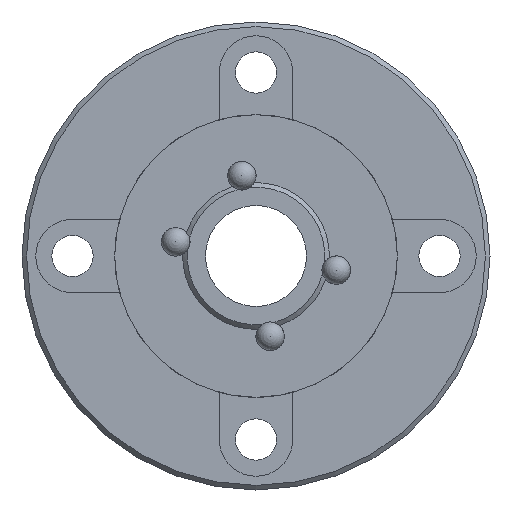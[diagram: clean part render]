
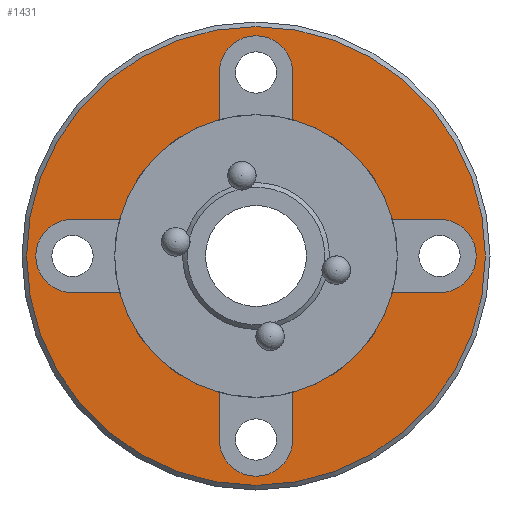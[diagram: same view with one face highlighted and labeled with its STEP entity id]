
A CAD part, left-side view. The second image highlights one B-rep face of the part: STEP entity #1431.
In plain terms, the highlighted planar face has unit normal (-1, 0, 0).
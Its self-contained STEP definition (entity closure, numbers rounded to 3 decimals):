
#54=PLANE('',#1598);
#94=LINE('',#2805,#142);
#95=LINE('',#2806,#143);
#96=LINE('',#2810,#144);
#97=LINE('',#2811,#145);
#98=LINE('',#2815,#146);
#99=LINE('',#2816,#147);
#100=LINE('',#2820,#148);
#101=LINE('',#2821,#149);
#142=VECTOR('',#1902,1000.);
#143=VECTOR('',#1903,1000.);
#144=VECTOR('',#1906,1000.);
#145=VECTOR('',#1907,1000.);
#146=VECTOR('',#1910,1000.);
#147=VECTOR('',#1911,1000.);
#148=VECTOR('',#1914,1000.);
#149=VECTOR('',#1915,1000.);
#425=ORIENTED_EDGE('',*,*,#732,.T.);
#426=ORIENTED_EDGE('',*,*,#733,.T.);
#427=ORIENTED_EDGE('',*,*,#715,.T.);
#428=ORIENTED_EDGE('',*,*,#734,.T.);
#429=ORIENTED_EDGE('',*,*,#735,.T.);
#430=ORIENTED_EDGE('',*,*,#736,.T.);
#431=ORIENTED_EDGE('',*,*,#711,.T.);
#432=ORIENTED_EDGE('',*,*,#737,.T.);
#433=ORIENTED_EDGE('',*,*,#738,.T.);
#434=ORIENTED_EDGE('',*,*,#739,.T.);
#435=ORIENTED_EDGE('',*,*,#707,.T.);
#436=ORIENTED_EDGE('',*,*,#740,.T.);
#437=ORIENTED_EDGE('',*,*,#741,.T.);
#438=ORIENTED_EDGE('',*,*,#742,.T.);
#439=ORIENTED_EDGE('',*,*,#719,.T.);
#440=ORIENTED_EDGE('',*,*,#743,.T.);
#441=ORIENTED_EDGE('',*,*,#730,.T.);
#707=EDGE_CURVE('',#879,#877,#1000,.T.);
#711=EDGE_CURVE('',#883,#882,#1002,.T.);
#715=EDGE_CURVE('',#887,#886,#1004,.T.);
#719=EDGE_CURVE('',#891,#890,#1006,.T.);
#730=EDGE_CURVE('',#900,#900,#1012,.T.);
#732=EDGE_CURVE('',#902,#903,#1014,.T.);
#733=EDGE_CURVE('',#903,#887,#94,.T.);
#734=EDGE_CURVE('',#886,#904,#95,.T.);
#735=EDGE_CURVE('',#904,#905,#1015,.T.);
#736=EDGE_CURVE('',#905,#883,#96,.T.);
#737=EDGE_CURVE('',#882,#906,#97,.T.);
#738=EDGE_CURVE('',#906,#907,#1016,.T.);
#739=EDGE_CURVE('',#907,#879,#98,.T.);
#740=EDGE_CURVE('',#877,#908,#99,.T.);
#741=EDGE_CURVE('',#908,#909,#1017,.T.);
#742=EDGE_CURVE('',#909,#891,#100,.T.);
#743=EDGE_CURVE('',#890,#902,#101,.T.);
#877=VERTEX_POINT('',#2726);
#879=VERTEX_POINT('',#2729);
#882=VERTEX_POINT('',#2735);
#883=VERTEX_POINT('',#2737);
#886=VERTEX_POINT('',#2743);
#887=VERTEX_POINT('',#2745);
#890=VERTEX_POINT('',#2751);
#891=VERTEX_POINT('',#2753);
#900=VERTEX_POINT('',#2798);
#902=VERTEX_POINT('',#2803);
#903=VERTEX_POINT('',#2804);
#904=VERTEX_POINT('',#2807);
#905=VERTEX_POINT('',#2809);
#906=VERTEX_POINT('',#2812);
#907=VERTEX_POINT('',#2814);
#908=VERTEX_POINT('',#2817);
#909=VERTEX_POINT('',#2819);
#1000=CIRCLE('',#1581,15.4);
#1002=CIRCLE('',#1583,15.4);
#1004=CIRCLE('',#1585,15.4);
#1006=CIRCLE('',#1587,15.4);
#1012=CIRCLE('',#1596,25.);
#1014=CIRCLE('',#1599,4.);
#1015=CIRCLE('',#1600,4.);
#1016=CIRCLE('',#1601,4.);
#1017=CIRCLE('',#1602,4.);
#1121=EDGE_LOOP('',(#425,#426,#427,#428,#429,#430,#431,#432,#433,#434,#435,
#436,#437,#438,#439,#440));
#1122=EDGE_LOOP('',(#441));
#1287=FACE_BOUND('',#1121,.T.);
#1288=FACE_BOUND('',#1122,.T.);
#1431=ADVANCED_FACE('',(#1287,#1288),#54,.F.);
#1581=AXIS2_PLACEMENT_3D('',#2728,#1856,#1857);
#1583=AXIS2_PLACEMENT_3D('',#2736,#1862,#1863);
#1585=AXIS2_PLACEMENT_3D('',#2744,#1868,#1869);
#1587=AXIS2_PLACEMENT_3D('',#2752,#1874,#1875);
#1596=AXIS2_PLACEMENT_3D('',#2797,#1894,#1895);
#1598=AXIS2_PLACEMENT_3D('',#2801,#1898,#1899);
#1599=AXIS2_PLACEMENT_3D('',#2802,#1900,#1901);
#1600=AXIS2_PLACEMENT_3D('',#2808,#1904,#1905);
#1601=AXIS2_PLACEMENT_3D('',#2813,#1908,#1909);
#1602=AXIS2_PLACEMENT_3D('',#2818,#1912,#1913);
#1856=DIRECTION('',(1.,0.,0.));
#1857=DIRECTION('',(0.,0.,-1.));
#1862=DIRECTION('',(1.,0.,0.));
#1863=DIRECTION('',(0.,0.,-1.));
#1868=DIRECTION('',(1.,0.,0.));
#1869=DIRECTION('',(0.,0.,-1.));
#1874=DIRECTION('',(1.,0.,0.));
#1875=DIRECTION('',(0.,0.,-1.));
#1894=DIRECTION('',(-1.,0.,0.));
#1895=DIRECTION('',(0.,0.,1.));
#1898=DIRECTION('',(1.,0.,0.));
#1899=DIRECTION('',(0.,0.,-1.));
#1900=DIRECTION('',(1.,0.,0.));
#1901=DIRECTION('',(0.,-1.,0.));
#1902=DIRECTION('',(0.,-1.,0.));
#1903=DIRECTION('',(0.,0.,1.));
#1904=DIRECTION('',(1.,0.,0.));
#1905=DIRECTION('',(0.,1.,0.));
#1906=DIRECTION('',(0.,0.,-1.));
#1907=DIRECTION('',(0.,-1.,0.));
#1908=DIRECTION('',(1.,0.,0.));
#1909=DIRECTION('',(0.,1.,0.));
#1910=DIRECTION('',(0.,1.,0.));
#1911=DIRECTION('',(0.,0.,-1.));
#1912=DIRECTION('',(1.,0.,0.));
#1913=DIRECTION('',(0.,-1.,0.));
#1914=DIRECTION('',(0.,0.,1.));
#1915=DIRECTION('',(0.,1.,0.));
#2726=CARTESIAN_POINT('',(-25.,-4.,-14.871));
#2728=CARTESIAN_POINT('',(-25.,0.,0.));
#2729=CARTESIAN_POINT('',(-25.,-14.871,-4.));
#2735=CARTESIAN_POINT('',(-25.,-14.871,4.));
#2736=CARTESIAN_POINT('',(-25.,0.,0.));
#2737=CARTESIAN_POINT('',(-25.,-4.,14.871));
#2743=CARTESIAN_POINT('',(-25.,4.,14.871));
#2744=CARTESIAN_POINT('',(-25.,0.,0.));
#2745=CARTESIAN_POINT('',(-25.,14.871,4.));
#2751=CARTESIAN_POINT('',(-25.,14.871,-4.));
#2752=CARTESIAN_POINT('',(-25.,0.,0.));
#2753=CARTESIAN_POINT('',(-25.,4.,-14.871));
#2797=CARTESIAN_POINT('',(-25.,0.,0.));
#2798=CARTESIAN_POINT('',(-25.,0.,25.));
#2801=CARTESIAN_POINT('',(-25.,25.,0.));
#2802=CARTESIAN_POINT('',(-25.,20.,0.));
#2803=CARTESIAN_POINT('',(-25.,20.,-4.));
#2804=CARTESIAN_POINT('',(-25.,20.,4.));
#2805=CARTESIAN_POINT('',(-25.,20.,4.));
#2806=CARTESIAN_POINT('',(-25.,4.,4.));
#2807=CARTESIAN_POINT('',(-25.,4.,20.));
#2808=CARTESIAN_POINT('',(-25.,0.,20.));
#2809=CARTESIAN_POINT('',(-25.,-4.,20.));
#2810=CARTESIAN_POINT('',(-25.,-4.,20.));
#2811=CARTESIAN_POINT('',(-25.,-4.,4.));
#2812=CARTESIAN_POINT('',(-25.,-20.,4.));
#2813=CARTESIAN_POINT('',(-25.,-20.,0.));
#2814=CARTESIAN_POINT('',(-25.,-20.,-4.));
#2815=CARTESIAN_POINT('',(-25.,-20.,-4.));
#2816=CARTESIAN_POINT('',(-25.,-4.,-4.));
#2817=CARTESIAN_POINT('',(-25.,-4.,-20.));
#2818=CARTESIAN_POINT('',(-25.,0.,-20.));
#2819=CARTESIAN_POINT('',(-25.,4.,-20.));
#2820=CARTESIAN_POINT('',(-25.,4.,-20.));
#2821=CARTESIAN_POINT('',(-25.,4.,-4.));
